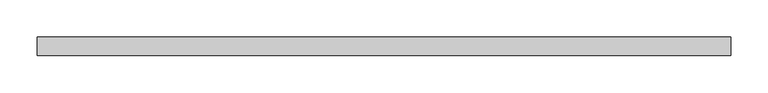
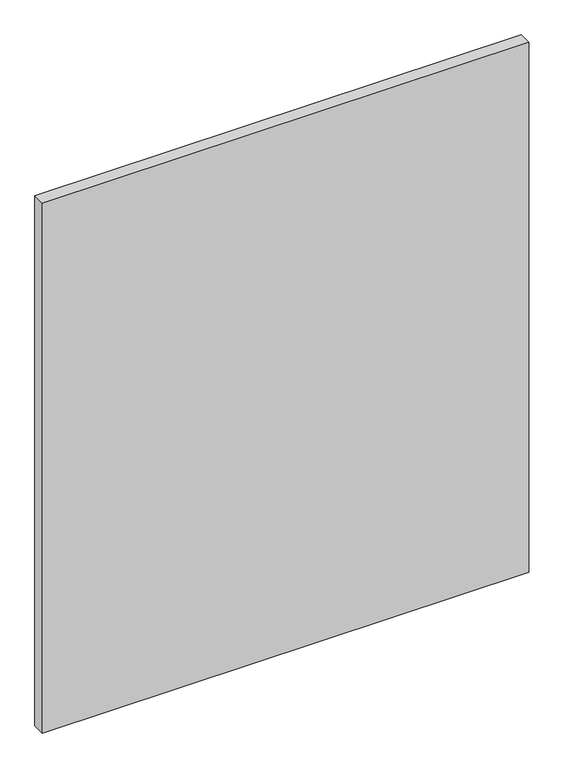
"""IFC4 building model written with IfcOpenShell, lengths in millimetres: plate geometry, 系統嵌板 : 有玻璃的."""

from ifc_helpers import new_model, si_unit, origin, origin_with_axes, place, context, project, spatial, polyline, outline, extrude, source, transform, mapped, element, save


def plate_49ade304(model_context):
    return source(origin(), model_context, "Body", "SweptSolid", [
        extrude(outline(polyline([(466.5797973, 24.5), (-466.5797973, 24.5), (-466.5797973, 49.5), (466.5797973, 49.5), (466.5797973, 24.5)])), origin_with_axes(), (0.0, 0.0, 1.0), 1074.8779336),
    ])


if __name__ == "__main__":
    model = new_model("IFC4")
    model_context = context("Model", 3, world=origin())
    ifc_project = project(units=[si_unit("LENGTHUNIT", "METRE", prefix="MILLI")], contexts=[model_context])
    site = spatial("IfcSite", under=ifc_project)
    building = spatial("IfcBuilding", under=site)
    placement = place(None, origin())
    plate_shape = plate_49ade304(model_context)
    element("IfcPlate", 1, ObjectType="系統嵌板 : 有玻璃的", at=placement, inside=building, context=model_context, shape_type="MappedRepresentation", body=[
        mapped(plate_shape, transform((0.0, 0.0, 0.0), x_axis=(1.0, 0.0, 0.0), y_axis=(0.0, 1.0, 0.0), z_axis=(0.0, 0.0, 1.0))),
    ])
    save(model, "model.ifc")
